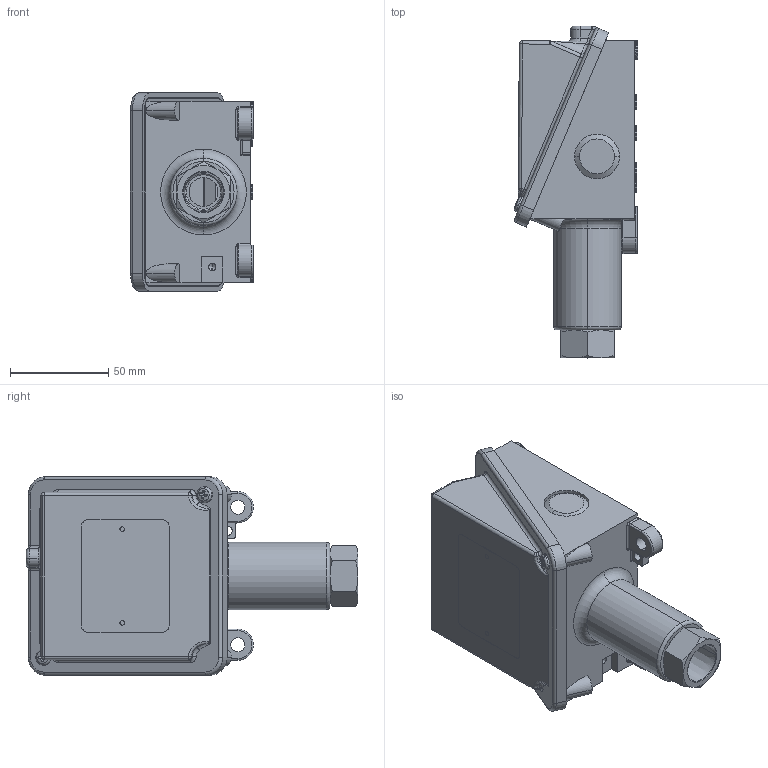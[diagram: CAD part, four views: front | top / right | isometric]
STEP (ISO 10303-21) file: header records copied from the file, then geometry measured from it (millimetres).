
FILE_DESCRIPTION (( 'STEP AP214' ), '1' );
FILE_NAME ('H100-190_194, 490_494_V2.STEP', '2025-02-21T20:02:47', ( '' ), ( '' ), 'SwSTEP 2.0', 'SolidWorks 2023', '' );
FILE_SCHEMA (( 'AUTOMOTIVE_DESIGN' ));
Length unit declared in the file: inch
Products named in the file (1): H100-190_194, 490_494_V2
Bounding box: 62.62 x 168.68 x 100.84 mm (x, y, z)
Volume: 185737.8 mm3; surface area: 114858.5 mm2
Topology: 7 solids, 7 shells, 835 faces, 1967 edges, 1153 vertices
Faces by surface type: cylinder 348, plane 240, torus 109, cone 66, bspline 36, sphere 36
Entity records: 25179 total; most frequent: CARTESIAN_POINT 5966, DIRECTION 4278, ORIENTED_EDGE 3846, EDGE_CURVE 1923, AXIS2_PLACEMENT_3D 1703, VERTEX_POINT 1153, EDGE_LOOP 910, CIRCLE 903
